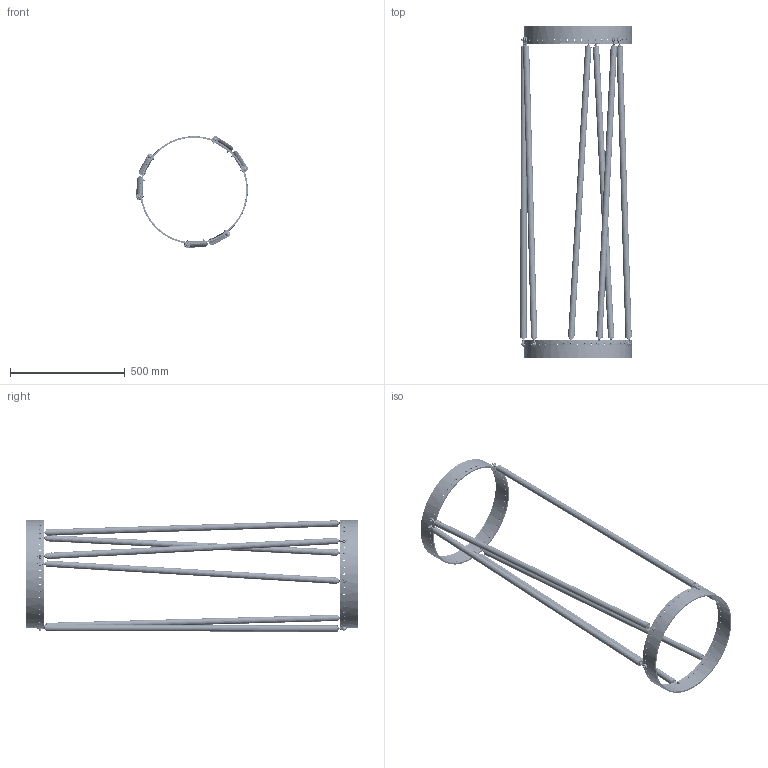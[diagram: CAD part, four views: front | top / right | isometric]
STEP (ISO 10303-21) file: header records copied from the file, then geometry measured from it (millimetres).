
FILE_DESCRIPTION (( 'STEP AP214' ), '1' );
FILE_NAME ('Telescope Structure.STEP', '2013-12-23T21:17:34', ( 'ydmin' ), ( 'Microsoft' ), 'SwSTEP 2.0', 'SolidWorks 2013', '' );
FILE_SCHEMA (( 'AUTOMOTIVE_DESIGN' ));
Length unit declared in the file: inch
Products named in the file (10): 94895A029_94895A029; 95479A115_95479A115; 91251A542_91251A542; Tube; DRP-002-0513-00; 60645K822; Ball; Body; Ring; Telescope Structure
Assembly tree (70 placements, depth 3):
  Telescope Structure
    Ring  x2
    60645K822  x12
      Body
      Ball
    DRP-002-0513-00  x12
    Tube  x6
    91251A542_91251A542  x12
    95479A115_95479A115  x12
    94895A029_94895A029  x12
Bounding box: 486.8 x 1445.5 x 486.84 mm (x, y, z)
Volume: 2378975.7 mm3; surface area: 1910428.9 mm2
Topology: 92 solids, 92 shells, 4200 faces, 10548 edges, 6560 vertices
Faces by surface type: cylinder 2528, cone 924, plane 484, bspline 156, torus 60, sphere 48
Entity records: 31063 total; most frequent: CARTESIAN_POINT 20207, ORIENTED_EDGE 2286, DIRECTION 1792, EDGE_CURVE 1143, VERTEX_POINT 724, AXIS2_PLACEMENT_3D 691, EDGE_LOOP 549, ADVANCED_FACE 438
